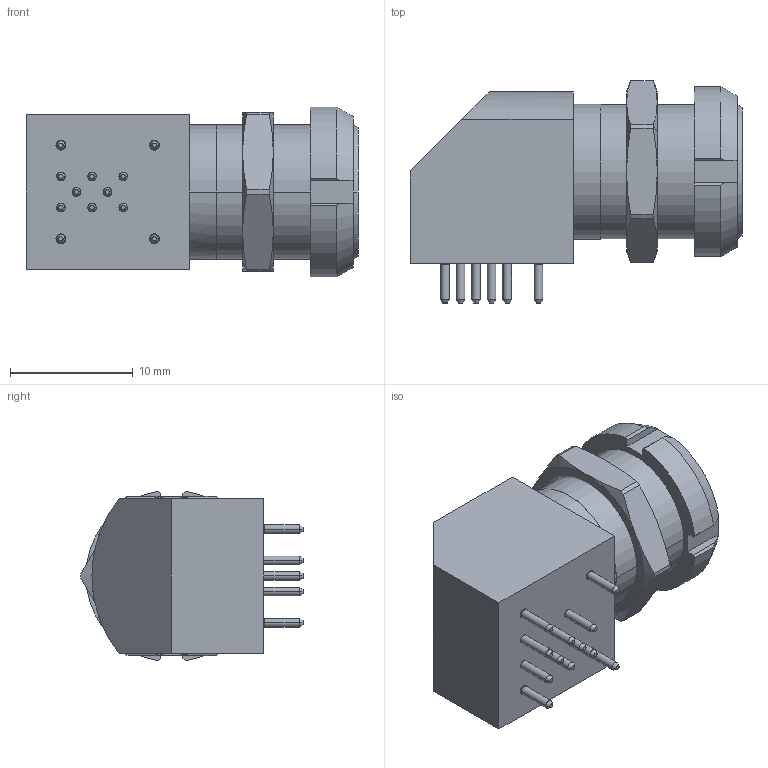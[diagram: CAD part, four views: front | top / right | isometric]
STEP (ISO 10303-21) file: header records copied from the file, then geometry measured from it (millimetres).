
FILE_DESCRIPTION(('STEP AP242'),'1');
FILE_NAME('exg_1b_308_hln.stp','2024-08-21T23:03:08',('TraceParts'),('TraceParts S.A.'),'Spatial InterOp 3D',' ',' ');
FILE_SCHEMA(('AP242_MANAGED_MODEL_BASED_3D_ENGINEERING_MIM_LF {1 0 10303 442 1 1 4}'));
Length unit declared in the file: millimetre
Products named in the file (1): exg_1b_308_hln_1
Bounding box: 27.04 x 18.1 x 13.83 mm (x, y, z)
Volume: 3655 mm3; surface area: 2138 mm2
Topology: 3 solids, 3 shells, 156 faces, 355 edges, 219 vertices
Faces by surface type: cone 62, plane 50, cylinder 44
Entity records: 5058 total; most frequent: CARTESIAN_POINT 813, DIRECTION 788, ORIENTED_EDGE 710, EDGE_CURVE 355, AXIS2_PLACEMENT_3D 314, VERTEX_POINT 219, EDGE_LOOP 174, LINE 160
